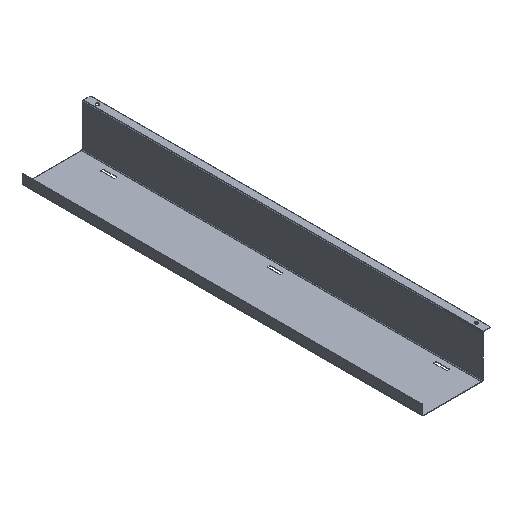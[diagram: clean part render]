
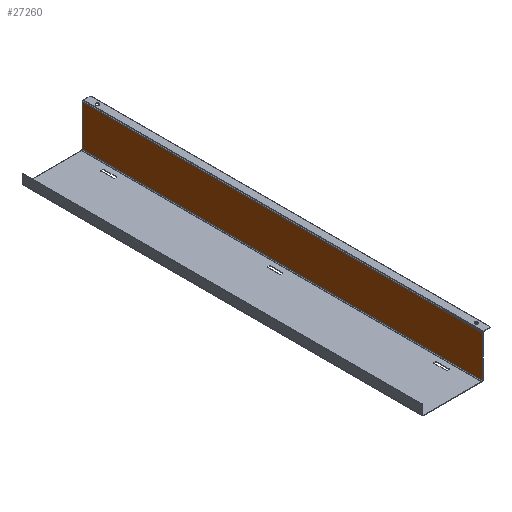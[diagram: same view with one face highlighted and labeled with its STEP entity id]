
A CAD part, isometric view. The second image highlights one B-rep face of the part: STEP entity #27260.
In plain terms, the highlighted free-form (B-spline) face has degree [1, 1] with [2, 2] control points.
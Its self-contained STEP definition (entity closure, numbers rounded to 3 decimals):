
#19610 = CARTESIAN_POINT ('', (-174.53, -370., 259.901));
#19620 = VERTEX_POINT ('', #19610);
#19690 = CARTESIAN_POINT ('', (-174.53, 370., 259.901));
#19700 = VERTEX_POINT ('', #19690);
#19710 = CARTESIAN_POINT ('', (-174.53, 370., 259.901));
#19720 = CARTESIAN_POINT ('', (-174.53, -370., 259.901));
#19730 = B_SPLINE_CURVE_WITH_KNOTS ('', 1, (#19710, #19720), .UNSPECIFIED., .F., .U., (2, 2), (0., 1.), .UNSPECIFIED.);
#19740 = EDGE_CURVE ('', #19700, #19620, #19730, .T.);
#21080 = CARTESIAN_POINT ('', (-174.53, -370., 335.97));
#21090 = VERTEX_POINT ('', #21080);
#21150 = CARTESIAN_POINT ('', (-174.53, -370., 335.97));
#21160 = CARTESIAN_POINT ('', (-174.53, -370., 259.901));
#21170 = B_SPLINE_CURVE_WITH_KNOTS ('', 1, (#21150, #21160), .UNSPECIFIED., .F., .U., (2, 2), (0., 1.), .UNSPECIFIED.);
#21180 = EDGE_CURVE ('', #21090, #19620, #21170, .T.);
#21710 = CARTESIAN_POINT ('', (-174.53, 370., 335.97));
#21720 = VERTEX_POINT ('', #21710);
#21790 = CARTESIAN_POINT ('', (-174.53, -370., 335.97));
#21800 = CARTESIAN_POINT ('', (-174.53, 370., 335.97));
#21810 = B_SPLINE_CURVE_WITH_KNOTS ('', 1, (#21790, #21800), .UNSPECIFIED., .F., .U., (2, 2), (0., 1.), .UNSPECIFIED.);
#21820 = EDGE_CURVE ('', #21090, #21720, #21810, .T.);
#26990 = CARTESIAN_POINT ('', (-174.53, 370., 335.97));
#27000 = CARTESIAN_POINT ('', (-174.53, 370., 259.901));
#27010 = B_SPLINE_CURVE_WITH_KNOTS ('', 1, (#26990, #27000), .UNSPECIFIED., .F., .U., (2, 2), (0., 1.), .UNSPECIFIED.);
#27020 = EDGE_CURVE ('', #21720, #19700, #27010, .T.);
#27150 = ORIENTED_EDGE ('', *, *, #21180, .F.);
#27160 = ORIENTED_EDGE ('', *, *, #21820, .T.);
#27170 = ORIENTED_EDGE ('', *, *, #27020, .T.);
#27180 = ORIENTED_EDGE ('', *, *, #19740, .T.);
#27190 = EDGE_LOOP ('', (#27150, #27160, #27170, #27180));
#27200 = FACE_OUTER_BOUND ('', #27190, .T.);
#27210 = CARTESIAN_POINT ('', (-174.53, -370.001, 335.971));
#27220 = CARTESIAN_POINT ('', (-174.53, -370.001, 259.9));
#27230 = CARTESIAN_POINT ('', (-174.53, 370.001, 335.971));
#27240 = CARTESIAN_POINT ('', (-174.53, 370.001, 259.9));
#27250 = B_SPLINE_SURFACE_WITH_KNOTS ('', 1, 1, ((#27210, #27220), (#27230, #27240)), .UNSPECIFIED., .F., .F., .U., (2, 2), (2, 2), (-370.001, 370.001), (-38.201, 37.87), .UNSPECIFIED.);
#27260 = ADVANCED_FACE ('', (#27200), #27250, .T.);
